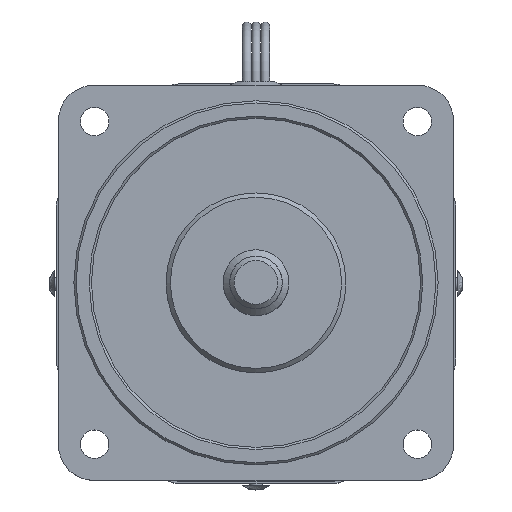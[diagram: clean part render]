
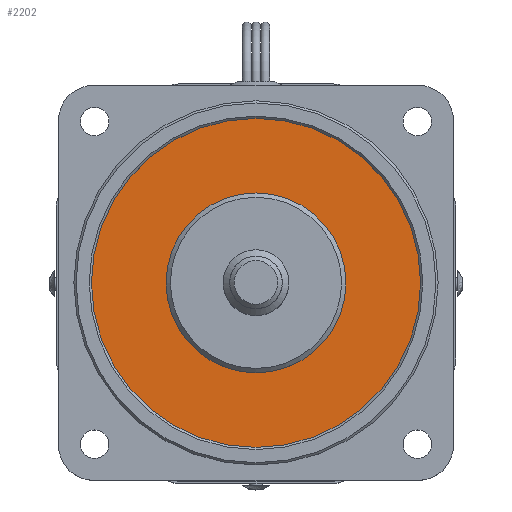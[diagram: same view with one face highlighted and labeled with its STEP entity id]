
A CAD part, top view. The second image highlights one B-rep face of the part: STEP entity #2202.
In plain terms, the highlighted planar face has unit normal (0, 0, 1).
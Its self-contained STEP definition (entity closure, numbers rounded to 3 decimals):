
#80 = EDGE_LOOP ( 'NONE', ( #1560 ) ) ;
#249 = EDGE_LOOP ( 'NONE', ( #1876 ) ) ;
#775 = CARTESIAN_POINT ( 'NONE',  ( 0., 0., -2. ) ) ;
#853 = CARTESIAN_POINT ( 'NONE',  ( 0., 0., -2. ) ) ;
#952 = DIRECTION ( 'NONE',  ( 1., 0., 0. ) ) ;
#986 = DIRECTION ( 'NONE',  ( 0., 0., 1. ) ) ;
#988 = PLANE ( 'NONE',  #1047 ) ;
#1047 = AXIS2_PLACEMENT_3D ( 'NONE', #775, #986, #952 ) ;
#1068 = AXIS2_PLACEMENT_3D ( 'NONE', #853, #5384, #5344 ) ;
#1098 = AXIS2_PLACEMENT_3D ( 'NONE', #2517, #2447, #2671 ) ;
#1560 = ORIENTED_EDGE ( 'NONE', *, *, #3423, .T. ) ;
#1876 = ORIENTED_EDGE ( 'NONE', *, *, #4839, .F. ) ;
#2202 = ADVANCED_FACE ( 'NONE', ( #3030, #3024 ), #988, .T. ) ;
#2327 = VERTEX_POINT ( 'NONE', #7131 ) ;
#2375 = VERTEX_POINT ( 'NONE', #7143 ) ;
#2447 = DIRECTION ( 'NONE',  ( 0., 0., 1. ) ) ;
#2517 = CARTESIAN_POINT ( 'NONE',  ( 0., 0., -2. ) ) ;
#2671 = DIRECTION ( 'NONE',  ( 1., 0., 0. ) ) ;
#2910 = CIRCLE ( 'NONE', #1098, 20.5 ) ;
#2983 = CIRCLE ( 'NONE', #1068, 37.5 ) ;
#3024 = FACE_BOUND ( 'NONE', #249, .T. ) ;
#3030 = FACE_OUTER_BOUND ( 'NONE', #80, .T. ) ;
#3423 = EDGE_CURVE ( 'NONE', #2327, #2327, #2983, .T. ) ;
#4839 = EDGE_CURVE ( 'NONE', #2375, #2375, #2910, .T. ) ;
#5344 = DIRECTION ( 'NONE',  ( 1., 0., 0. ) ) ;
#5384 = DIRECTION ( 'NONE',  ( 0., 0., 1. ) ) ;
#7131 = CARTESIAN_POINT ( 'NONE',  ( 37.5, 0., -2. ) ) ;
#7143 = CARTESIAN_POINT ( 'NONE',  ( 20.5, 0., -2. ) ) ;
